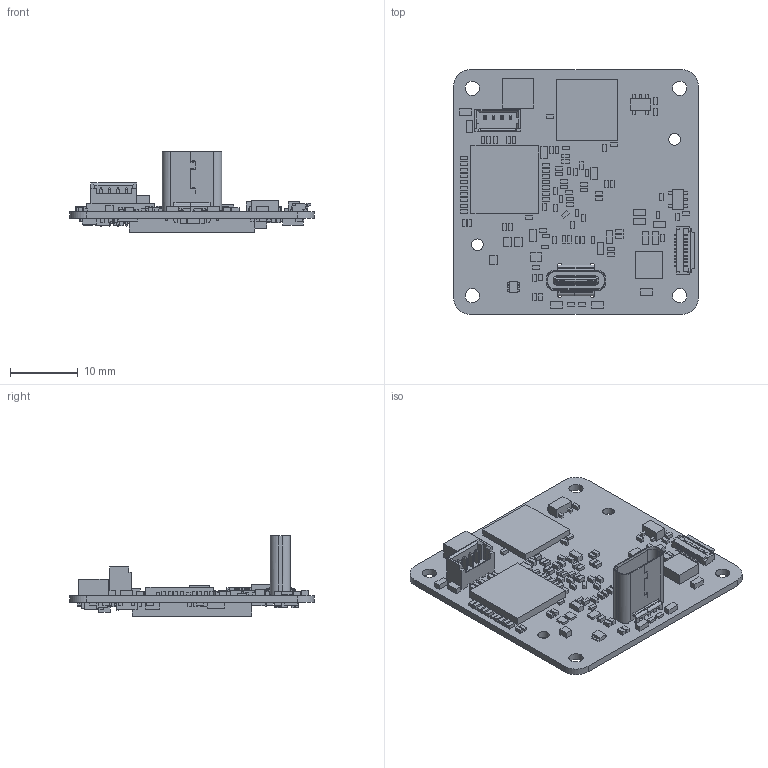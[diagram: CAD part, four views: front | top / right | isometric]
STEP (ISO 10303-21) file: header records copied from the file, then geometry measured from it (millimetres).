
FILE_DESCRIPTION(('Open CASCADE Model'),'2;1');
FILE_NAME('Open CASCADE Shape Model','2017-09-01T13:41:50',('Author'),( 'Open CASCADE'),'Open CASCADE STEP processor 6.8','Open CASCADE 6.8' ,'Unknown');
FILE_SCHEMA(('AUTOMOTIVE_DESIGN { 1 0 10303 214 1 1 1 1 }'));
Products named in the file (1): PCB
Bounding box: 36 x 36.01 x 11.82 mm (x, y, z)
Volume: 2530.4 mm3; surface area: 5813.5 mm2
Topology: 223 solids, 223 shells, 2812 faces, 6867 edges, 4542 vertices
Faces by surface type: plane 2536, cylinder 256, cone 20
Full cylindrical faces by diameter (mm): 0.5 x4, 0.66 x1, 0.7 x4, 1.7 x2, 2.1 x4
Entity records: 82585 total; most frequent: CARTESIAN_POINT 14558, ORIENTED_EDGE 13704, DIRECTION 12968, EDGE_CURVE 6852, LINE 6280, VECTOR 6280, VERTEX_POINT 4512, AXIS2_PLACEMENT_3D 3344
